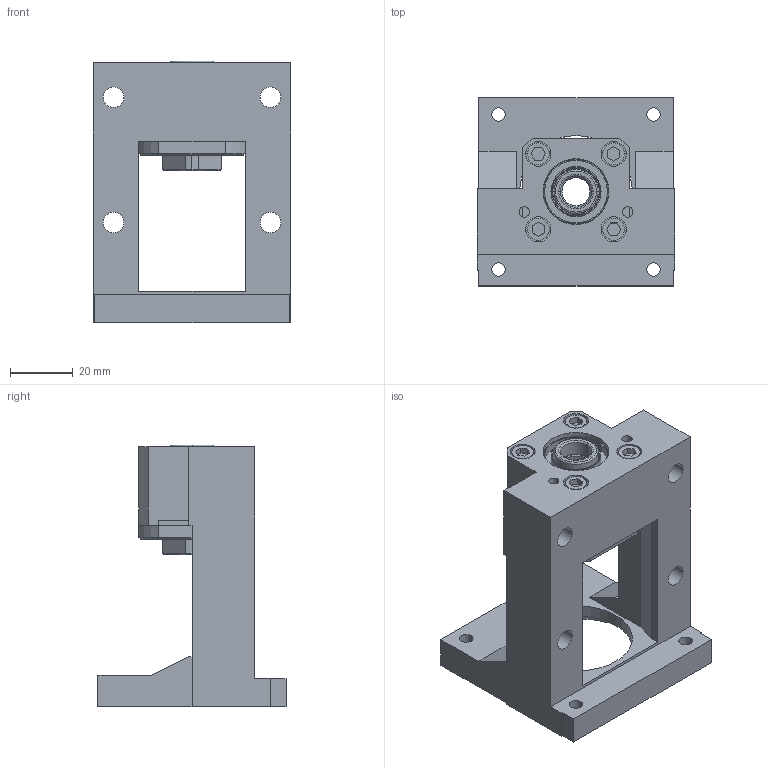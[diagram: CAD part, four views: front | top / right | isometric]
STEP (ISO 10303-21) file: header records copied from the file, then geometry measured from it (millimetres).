
FILE_DESCRIPTION (( 'STEP AP203' ), '1' );
FILE_NAME ('MBCF10-D.STEP', '2018-11-26T08:37:40', ( '' ), ( '' ), 'SwSTEP 2.0', 'SolidWorks 2018', '' );
FILE_SCHEMA (( 'CONFIG_CONTROL_DESIGN' ));
Length unit declared in the file: millimetre
Products named in the file (1): MBCF10-D
Bounding box: 63 x 60 x 83.5 mm (x, y, z)
Surface area: 30938.7 mm2 (no closed solid volume)
Topology: 0 solids, 18 shells, 243 faces, 640 edges, 423 vertices
Faces by surface type: plane 103, cylinder 87, cone 37, torus 12, bspline 4
Entity records: 8118 total; most frequent: CARTESIAN_POINT 1904, DIRECTION 1337, ORIENTED_EDGE 1161, EDGE_CURVE 640, AXIS2_PLACEMENT_3D 506, VERTEX_POINT 423, VECTOR 325, LINE 325
